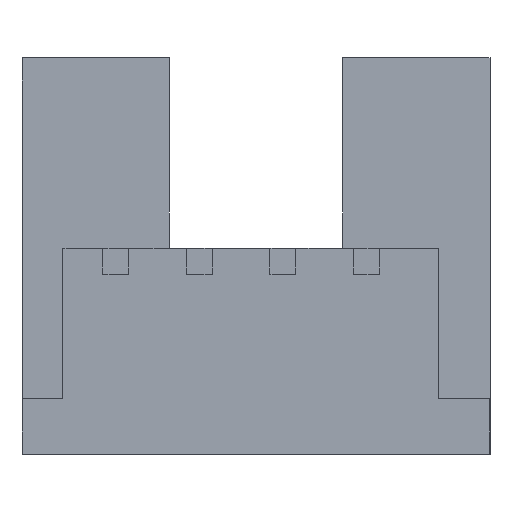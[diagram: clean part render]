
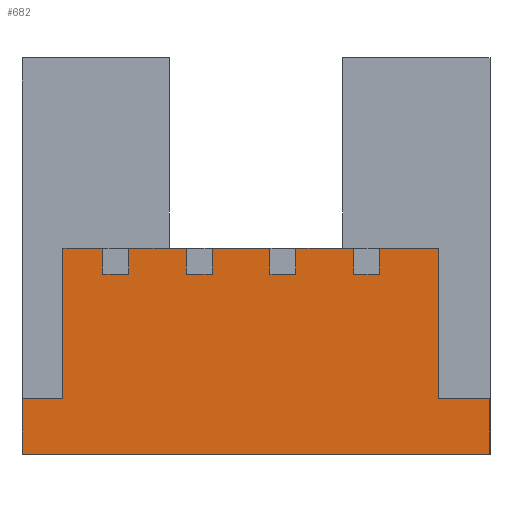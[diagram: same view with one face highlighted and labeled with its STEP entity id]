
A CAD part, left-side view. The second image highlights one B-rep face of the part: STEP entity #682.
In plain terms, the highlighted planar face has unit normal (-1, 0, 0).
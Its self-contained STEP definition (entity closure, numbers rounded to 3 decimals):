
#51=FACE_OUTER_BOUND('',#85,.T.);
#85=EDGE_LOOP('',(#577,#578,#579,#580,#581,#582,#583,#584,#585,#586,#587,
#588,#589,#590,#591,#592,#593,#594,#595,#596,#597,#598,#599,#600));
#90=LINE('',#914,#181);
#94=LINE('',#922,#185);
#97=LINE('',#928,#188);
#101=LINE('',#937,#192);
#105=LINE('',#945,#196);
#108=LINE('',#951,#199);
#112=LINE('',#960,#203);
#116=LINE('',#968,#207);
#119=LINE('',#974,#210);
#123=LINE('',#983,#214);
#127=LINE('',#991,#218);
#130=LINE('',#997,#221);
#135=LINE('',#1008,#226);
#143=LINE('',#1023,#234);
#144=LINE('',#1025,#235);
#145=LINE('',#1026,#236);
#146=LINE('',#1027,#237);
#147=LINE('',#1028,#238);
#148=LINE('',#1029,#239);
#149=LINE('',#1032,#240);
#153=LINE('',#1039,#244);
#175=LINE('',#1091,#266);
#176=LINE('',#1094,#267);
#177=LINE('',#1095,#268);
#181=VECTOR('',#747,10.);
#185=VECTOR('',#753,10.);
#188=VECTOR('',#758,10.);
#192=VECTOR('',#766,10.);
#196=VECTOR('',#772,10.);
#199=VECTOR('',#777,10.);
#203=VECTOR('',#785,10.);
#207=VECTOR('',#791,10.);
#210=VECTOR('',#796,10.);
#214=VECTOR('',#804,10.);
#218=VECTOR('',#810,10.);
#221=VECTOR('',#815,10.);
#226=VECTOR('',#824,10.);
#234=VECTOR('',#836,10.);
#235=VECTOR('',#839,10.);
#236=VECTOR('',#840,10.);
#237=VECTOR('',#841,10.);
#238=VECTOR('',#842,10.);
#239=VECTOR('',#843,10.);
#240=VECTOR('',#846,10.);
#244=VECTOR('',#850,10.);
#266=VECTOR('',#896,10.);
#267=VECTOR('',#899,10.);
#268=VECTOR('',#900,10.);
#272=VERTEX_POINT('',#912);
#273=VERTEX_POINT('',#913);
#276=VERTEX_POINT('',#921);
#278=VERTEX_POINT('',#927);
#280=VERTEX_POINT('',#935);
#281=VERTEX_POINT('',#936);
#284=VERTEX_POINT('',#944);
#286=VERTEX_POINT('',#950);
#288=VERTEX_POINT('',#958);
#289=VERTEX_POINT('',#959);
#292=VERTEX_POINT('',#967);
#294=VERTEX_POINT('',#973);
#296=VERTEX_POINT('',#981);
#297=VERTEX_POINT('',#982);
#300=VERTEX_POINT('',#990);
#302=VERTEX_POINT('',#996);
#304=VERTEX_POINT('',#1004);
#306=VERTEX_POINT('',#1007);
#310=VERTEX_POINT('',#1019);
#311=VERTEX_POINT('',#1021);
#312=VERTEX_POINT('',#1031);
#315=VERTEX_POINT('',#1037);
#332=VERTEX_POINT('',#1087);
#334=VERTEX_POINT('',#1093);
#336=EDGE_CURVE('',#272,#273,#90,.T.);
#340=EDGE_CURVE('',#273,#276,#94,.T.);
#343=EDGE_CURVE('',#278,#272,#97,.T.);
#347=EDGE_CURVE('',#280,#281,#101,.T.);
#351=EDGE_CURVE('',#281,#284,#105,.T.);
#354=EDGE_CURVE('',#284,#286,#108,.T.);
#358=EDGE_CURVE('',#288,#289,#112,.T.);
#362=EDGE_CURVE('',#289,#292,#116,.T.);
#365=EDGE_CURVE('',#292,#294,#119,.T.);
#369=EDGE_CURVE('',#296,#297,#123,.T.);
#373=EDGE_CURVE('',#297,#300,#127,.T.);
#376=EDGE_CURVE('',#302,#296,#130,.T.);
#381=EDGE_CURVE('',#304,#306,#135,.T.);
#389=EDGE_CURVE('',#310,#311,#143,.T.);
#390=EDGE_CURVE('',#306,#300,#144,.T.);
#391=EDGE_CURVE('',#302,#286,#145,.T.);
#392=EDGE_CURVE('',#280,#276,#146,.T.);
#393=EDGE_CURVE('',#278,#294,#147,.T.);
#394=EDGE_CURVE('',#288,#311,#148,.T.);
#395=EDGE_CURVE('',#310,#312,#149,.T.);
#399=EDGE_CURVE('',#315,#304,#153,.T.);
#425=EDGE_CURVE('',#332,#312,#175,.T.);
#426=EDGE_CURVE('',#334,#315,#176,.T.);
#427=EDGE_CURVE('',#334,#332,#177,.T.);
#577=ORIENTED_EDGE('',*,*,#340,.T.);
#578=ORIENTED_EDGE('',*,*,#392,.F.);
#579=ORIENTED_EDGE('',*,*,#347,.T.);
#580=ORIENTED_EDGE('',*,*,#351,.T.);
#581=ORIENTED_EDGE('',*,*,#354,.T.);
#582=ORIENTED_EDGE('',*,*,#391,.F.);
#583=ORIENTED_EDGE('',*,*,#376,.T.);
#584=ORIENTED_EDGE('',*,*,#369,.T.);
#585=ORIENTED_EDGE('',*,*,#373,.T.);
#586=ORIENTED_EDGE('',*,*,#390,.F.);
#587=ORIENTED_EDGE('',*,*,#381,.F.);
#588=ORIENTED_EDGE('',*,*,#399,.F.);
#589=ORIENTED_EDGE('',*,*,#426,.F.);
#590=ORIENTED_EDGE('',*,*,#427,.T.);
#591=ORIENTED_EDGE('',*,*,#425,.T.);
#592=ORIENTED_EDGE('',*,*,#395,.F.);
#593=ORIENTED_EDGE('',*,*,#389,.T.);
#594=ORIENTED_EDGE('',*,*,#394,.F.);
#595=ORIENTED_EDGE('',*,*,#358,.T.);
#596=ORIENTED_EDGE('',*,*,#362,.T.);
#597=ORIENTED_EDGE('',*,*,#365,.T.);
#598=ORIENTED_EDGE('',*,*,#393,.F.);
#599=ORIENTED_EDGE('',*,*,#343,.T.);
#600=ORIENTED_EDGE('',*,*,#336,.T.);
#649=PLANE('',#739);
#682=ADVANCED_FACE('',(#51),#649,.T.);
#739=AXIS2_PLACEMENT_3D('',#1092,#897,#898);
#747=DIRECTION('',(0.,1.,0.));
#753=DIRECTION('',(0.,0.,1.));
#758=DIRECTION('',(0.,0.,-1.));
#766=DIRECTION('',(0.,0.,-1.));
#772=DIRECTION('',(0.,1.,0.));
#777=DIRECTION('',(0.,0.,1.));
#785=DIRECTION('',(0.,0.,-1.));
#791=DIRECTION('',(0.,1.,0.));
#796=DIRECTION('',(0.,0.,1.));
#804=DIRECTION('',(0.,1.,0.));
#810=DIRECTION('',(0.,0.,1.));
#815=DIRECTION('',(0.,0.,-1.));
#824=DIRECTION('',(0.,0.,1.));
#836=DIRECTION('',(0.,0.,1.));
#839=DIRECTION('',(0.,-1.,0.));
#840=DIRECTION('',(0.,-1.,0.));
#841=DIRECTION('',(0.,-1.,0.));
#842=DIRECTION('',(0.,-1.,0.));
#843=DIRECTION('',(0.,-1.,0.));
#846=DIRECTION('',(0.,-1.,0.));
#850=DIRECTION('',(0.,-1.,0.));
#896=DIRECTION('',(0.,0.,1.));
#897=DIRECTION('center_axis',(-1.,0.,0.));
#898=DIRECTION('ref_axis',(0.,-1.,0.));
#899=DIRECTION('',(0.,0.,1.));
#900=DIRECTION('',(0.,-1.,0.));
#912=CARTESIAN_POINT('',(0.,5.808,5.381));
#913=CARTESIAN_POINT('',(0.,6.583,5.381));
#914=CARTESIAN_POINT('',(0.,10.291,5.381));
#921=CARTESIAN_POINT('',(0.,6.583,6.15));
#922=CARTESIAN_POINT('',(0.,6.583,3.075));
#927=CARTESIAN_POINT('',(0.,5.808,6.15));
#928=CARTESIAN_POINT('',(0.,5.808,2.691));
#935=CARTESIAN_POINT('',(0.,8.308,6.15));
#936=CARTESIAN_POINT('',(0.,8.308,5.381));
#937=CARTESIAN_POINT('',(0.,8.308,2.691));
#944=CARTESIAN_POINT('',(0.,9.083,5.381));
#945=CARTESIAN_POINT('',(0.,11.541,5.381));
#950=CARTESIAN_POINT('',(0.,9.083,6.15));
#951=CARTESIAN_POINT('',(0.,9.083,3.075));
#958=CARTESIAN_POINT('',(0.,3.308,6.15));
#959=CARTESIAN_POINT('',(0.,3.308,5.381));
#960=CARTESIAN_POINT('',(0.,3.308,2.691));
#967=CARTESIAN_POINT('',(0.,4.083,5.381));
#968=CARTESIAN_POINT('',(0.,9.041,5.381));
#973=CARTESIAN_POINT('',(0.,4.083,6.15));
#974=CARTESIAN_POINT('',(0.,4.083,3.075));
#981=CARTESIAN_POINT('',(0.,10.808,5.381));
#982=CARTESIAN_POINT('',(0.,11.583,5.381));
#983=CARTESIAN_POINT('',(0.,12.791,5.381));
#990=CARTESIAN_POINT('',(0.,11.583,6.15));
#991=CARTESIAN_POINT('',(0.,11.583,3.075));
#996=CARTESIAN_POINT('',(0.,10.808,6.15));
#997=CARTESIAN_POINT('',(0.,10.808,2.691));
#1004=CARTESIAN_POINT('',(0.,12.775,1.65));
#1007=CARTESIAN_POINT('',(0.,12.775,6.15));
#1008=CARTESIAN_POINT('',(0.,12.775,1.65));
#1019=CARTESIAN_POINT('',(0.,1.535,1.65));
#1021=CARTESIAN_POINT('',(0.,1.535,6.15));
#1023=CARTESIAN_POINT('',(0.,1.535,1.65));
#1025=CARTESIAN_POINT('',(0.,14.,6.15));
#1026=CARTESIAN_POINT('',(0.,14.,6.15));
#1027=CARTESIAN_POINT('',(0.,14.,6.15));
#1028=CARTESIAN_POINT('',(0.,14.,6.15));
#1029=CARTESIAN_POINT('',(0.,14.,6.15));
#1031=CARTESIAN_POINT('',(0.,0.,1.65));
#1032=CARTESIAN_POINT('',(0.,14.,1.65));
#1037=CARTESIAN_POINT('',(0.,14.,1.65));
#1039=CARTESIAN_POINT('',(0.,14.,1.65));
#1087=CARTESIAN_POINT('',(0.,0.,0.));
#1091=CARTESIAN_POINT('',(0.,0.,0.));
#1092=CARTESIAN_POINT('Origin',(0.,14.,0.));
#1093=CARTESIAN_POINT('',(0.,14.,0.));
#1094=CARTESIAN_POINT('',(0.,14.,0.));
#1095=CARTESIAN_POINT('',(0.,14.,0.));
